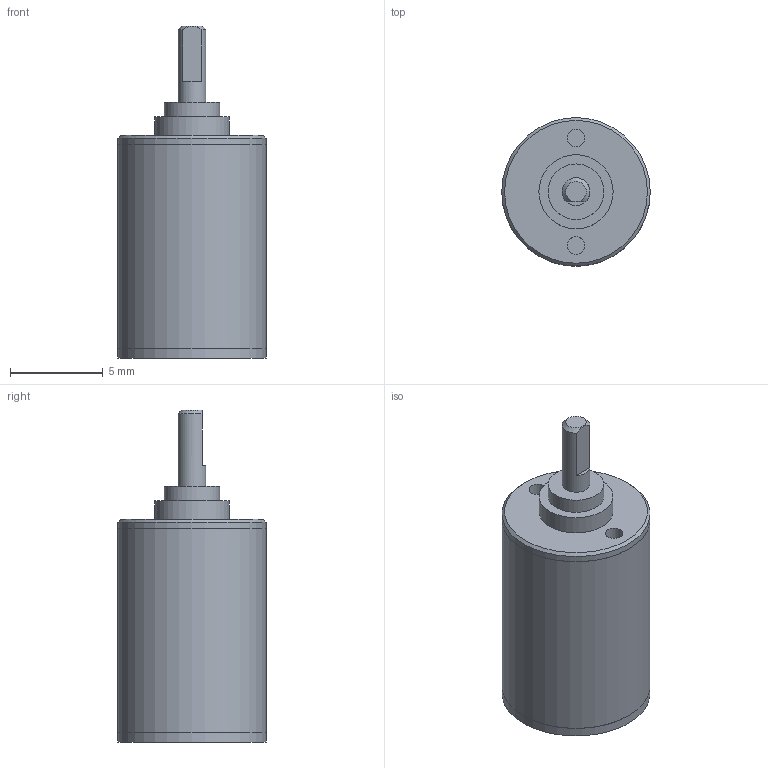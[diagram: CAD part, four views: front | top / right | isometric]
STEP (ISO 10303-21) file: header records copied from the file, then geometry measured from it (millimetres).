
FILE_DESCRIPTION(/* description */ (''),/* implementation_level */ '2;1');
FILE_NAME(/* name */ '08-2K_2.stp',/* time_stamp */ '2016-08-23T14:17:20+02:00',/* author */ ('DR. FRITZ FAULHABER GmbH & Co. KG'),/* organization */ ('DR. FRITZ FAULHABER GmbH & Co. KG'),/* preprocessor_version */ 'ST-DEVELOPER v16',/* originating_system */ 'SIEMENS PLM Software NX 10.0',/* authorisation */ '');
FILE_SCHEMA (('AUTOMOTIVE_DESIGN { 1 0 10303 214 3 1 1 1 }'));
Length unit declared in the file: millimetre
Products named in the file (1): H00000396_A
Bounding box: 8 x 8 x 17.9 mm (x, y, z)
Volume: 548.3 mm3; surface area: 515.5 mm2
Topology: 1 solids, 1 shells, 33 faces, 56 edges, 37 vertices
Faces by surface type: plane 16, cylinder 14, cone 3
Full cylindrical faces by diameter (mm): 0.95 x2, 1.5 x1, 2.13 x1, 2.53 x1, 3 x1, 4 x1, 4.959 x1, 6 x1, 7.99 x2, 8 x3
Entity records: 709 total; most frequent: DIRECTION 133, CARTESIAN_POINT 115, ORIENTED_EDGE 72, AXIS2_PLACEMENT_3D 65, EDGE_LOOP 61, FACE_BOUND 54, EDGE_CURVE 36, ADVANCED_FACE 33
